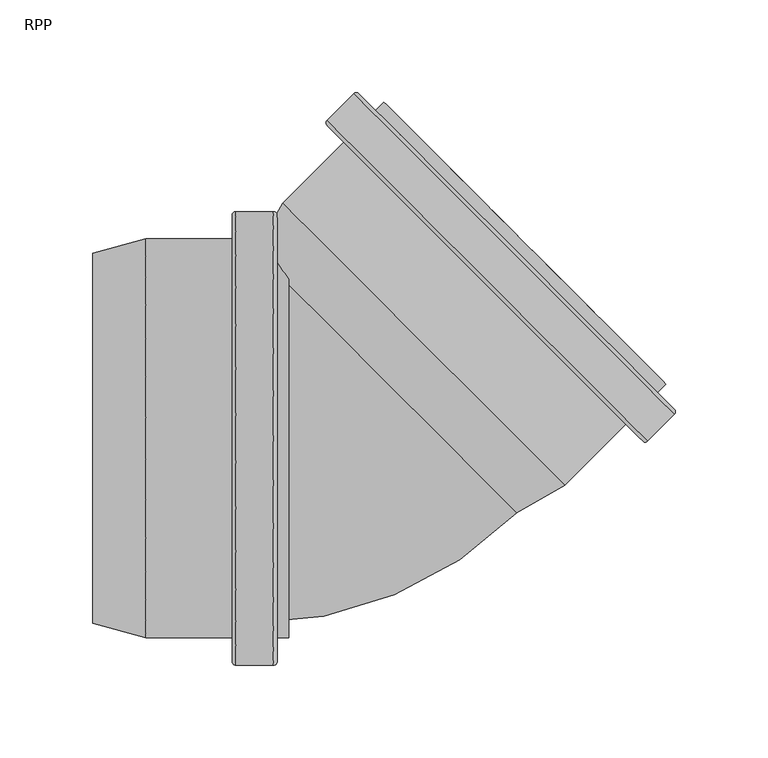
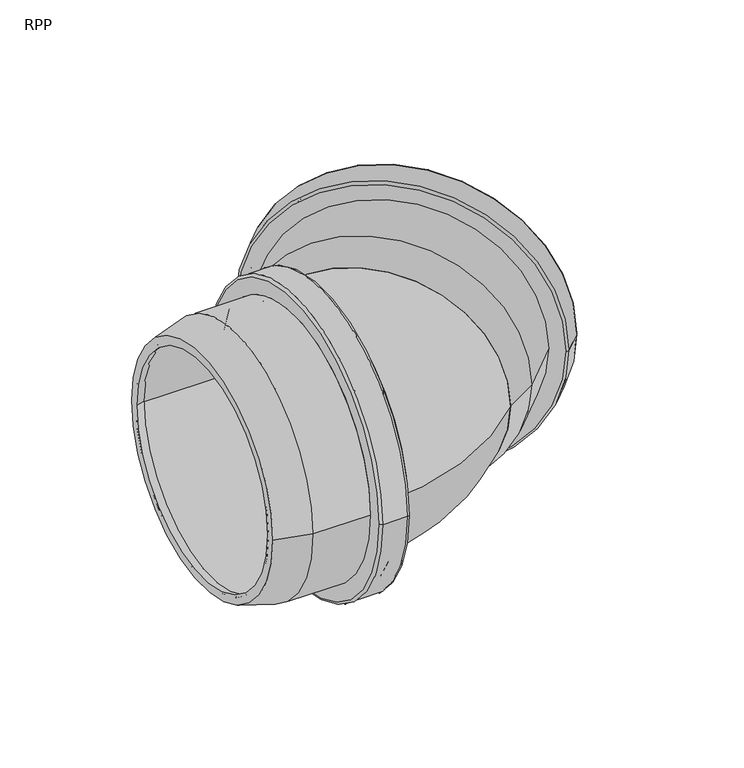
"""IFC4 building model written with IfcOpenShell, lengths in millimetres: pipe fitting geometry, RAUPIANO PLUS Bend : RPP."""

from ifc_helpers import new_model, si_unit, point, frame, origin, place, context, project, spatial, polyline, circle_curve, ellipse_curve, trimmed, source, transform, mapped, element, save
from ifc_brep_helpers import plane_surface, cylinder_surface, revolved_surface, advanced_brep


def rpp_7928c06b(model_context):
    return source(origin(), model_context, "Body", "AdvancedBrep", [
        advanced_brep(
        [(-45.2782105, -100.3, 0.0), (-45.2782105, 100.3, 0.0), (-98.3671908, 100.3, 0.0), (-98.3671908, -100.3, 0.0), (-44.7782105, -115.1, 0.0), (-44.7782105, 115.1, 0.0), (-45.2782105, 114.6, 0.0), (-45.2782105, -114.6, 0.0), (-36.2782105, -115.1, 0.0), (-36.2782105, 115.1, 0.0), (-35.7782105, -114.6, 0.0), (-35.7782105, 114.6, 0.0), (-21.9782105, -100.3, 0.0), (-21.9782105, 100.3, 0.0), (-35.7782105, 100.3, 0.0), (-35.7782105, -100.3, 0.0), (-28.3782105, -107.7, 0.0), (-28.3782105, 107.7, 0.0), (-21.9782105, 107.7, 0.0), (-21.9782105, -107.7, 0.0), (-30.3782105, -122.5, 0.0), (-30.3782105, 122.5, 0.0), (-28.3782105, 120.5, 0.0), (-28.3782105, -120.5, 0.0), (-50.6782105, -122.5, 0.0), (-50.6782105, 122.5, 0.0), (-52.6782105, -120.5, 0.0), (-52.6782105, 120.5, 0.0), (-99.3414193, -107.7, 0.0), (-99.3414193, 107.7, 0.0), (-52.6782105, 107.7, 0.0), (-52.6782105, -107.7, 0.0), (-128.0782105, -100.0, 0.0), (-128.0782105, 100.0, 0.0), (-128.0782105, 92.3389563, 0.0), (-128.0782105, -92.3389563, 0.0)],
        [
            (0, 1, circle_curve(frame((-45.2782105, 0.0, 0.0), z_axis=(1.0, 0.0, 0.0), x_axis=(0.0, 1.0, 0.0)), 100.3)),
            (1, 2),
            (2, 3, circle_curve(frame((-98.3671908, 0.0, 0.0), z_axis=(-1.0, 0.0, 0.0), x_axis=(0.0, 1.0, 0.0)), 100.3)),
            (3, 0),
            (4, 5, circle_curve(frame((-44.7782105, 0.0, 0.0), z_axis=(1.0, 0.0, 0.0), x_axis=(0.0, 1.0, 0.0)), 115.1)),
            (5, 6, circle_curve(frame((-44.7782105, 114.6, 0.0), z_axis=(0.0, 0.0, 1.0), x_axis=(0.0, -1.0, 0.0)), 0.5)),
            (6, 7, circle_curve(frame((-45.2782105, 0.0, 0.0), z_axis=(-1.0, 0.0, 0.0), x_axis=(0.0, 1.0, 0.0)), 114.6)),
            (7, 4, circle_curve(frame((-44.7782105, -114.6, 0.0), z_axis=(0.0, 0.0, 1.0), x_axis=(0.0, 1.0, 0.0)), 0.5)),
            (8, 9, circle_curve(frame((-36.2782105, 0.0, 0.0), z_axis=(1.0, 0.0, 0.0), x_axis=(0.0, 1.0, 0.0)), 115.1)),
            (9, 5),
            (4, 8),
            (10, 11, circle_curve(frame((-35.7782105, 0.0, 0.0), z_axis=(1.0, 0.0, 0.0), x_axis=(0.0, 1.0, 0.0)), 114.6)),
            (11, 9, circle_curve(frame((-36.2782105, 114.6, 0.0), z_axis=(0.0, 0.0, 1.0), x_axis=(0.0, -1.0, 0.0)), 0.5)),
            (8, 10, circle_curve(frame((-36.2782105, -114.6, 0.0), z_axis=(0.0, 0.0, 1.0), x_axis=(0.0, 1.0, 0.0)), 0.5)),
            (12, 13, circle_curve(frame((-21.9782105, 0.0, 0.0), z_axis=(1.0, 0.0, 0.0), x_axis=(0.0, 1.0, 0.0)), 100.3)),
            (13, 14),
            (14, 15, circle_curve(frame((-35.7782105, 0.0, 0.0), z_axis=(-1.0, 0.0, 0.0), x_axis=(0.0, 1.0, 0.0)), 100.3)),
            (15, 12),
            (16, 17, circle_curve(frame((-28.3782105, 0.0, 0.0), z_axis=(1.0, 0.0, 0.0), x_axis=(0.0, 1.0, 0.0)), 107.7)),
            (17, 18),
            (18, 19, circle_curve(frame((-21.9782105, 0.0, 0.0), z_axis=(-1.0, 0.0, 0.0), x_axis=(0.0, 1.0, 0.0)), 107.7)),
            (19, 16),
            (20, 21, circle_curve(frame((-30.3782105, 0.0, 0.0), z_axis=(1.0, 0.0, 0.0), x_axis=(0.0, 1.0, 0.0)), 122.5)),
            (21, 22, circle_curve(frame((-30.3782105, 120.5, 0.0), z_axis=(0.0, 0.0, -1.0), x_axis=(0.0, -1.0, 0.0)), 2.0)),
            (22, 23, circle_curve(frame((-28.3782105, 0.0, 0.0), z_axis=(-1.0, 0.0, 0.0), x_axis=(0.0, 1.0, 0.0)), 120.5)),
            (23, 20, circle_curve(frame((-30.3782105, -120.5, 0.0), z_axis=(0.0, 0.0, -1.0), x_axis=(0.0, 1.0, 0.0)), 2.0)),
            (24, 25, circle_curve(frame((-50.6782105, 0.0, 0.0), z_axis=(1.0, 0.0, 0.0), x_axis=(0.0, 1.0, 0.0)), 122.5)),
            (25, 21),
            (20, 24),
            (26, 27, circle_curve(frame((-52.6782105, 0.0, 0.0), z_axis=(1.0, 0.0, 0.0), x_axis=(0.0, 1.0, 0.0)), 120.5)),
            (27, 25, circle_curve(frame((-50.6782105, 120.5, 0.0), z_axis=(0.0, 0.0, -1.0), x_axis=(0.0, -1.0, 0.0)), 2.0)),
            (24, 26, circle_curve(frame((-50.6782105, -120.5, 0.0), z_axis=(0.0, 0.0, -1.0), x_axis=(0.0, 1.0, 0.0)), 2.0)),
            (28, 29, circle_curve(frame((-99.3414193, 0.0, 0.0), z_axis=(1.0, 0.0, 0.0), x_axis=(0.0, 1.0, 0.0)), 107.7)),
            (29, 30),
            (30, 31, circle_curve(frame((-52.6782105, 0.0, 0.0), z_axis=(-1.0, 0.0, 0.0), x_axis=(0.0, 1.0, 0.0)), 107.7)),
            (31, 28),
            (32, 33, circle_curve(frame((-128.0782105, 0.0, 0.0), z_axis=(1.0, 0.0, 0.0), x_axis=(0.0, 1.0, 0.0)), 100.0)),
            (33, 29),
            (28, 32),
            (2, 34),
            (34, 35, circle_curve(frame((-128.0782105, 0.0, 0.0), z_axis=(-1.0, 0.0, 0.0), x_axis=(0.0, 1.0, 0.0)), 92.3389563)),
            (35, 3),
            (1, 0, circle_curve(frame((-45.2782105, 0.0, 0.0), z_axis=(1.0, 0.0, 0.0), x_axis=(0.0, -1.0, 0.0)), 100.3)),
            (3, 2, circle_curve(frame((-98.3671908, 0.0, 0.0), z_axis=(-1.0, 0.0, 0.0), x_axis=(0.0, -1.0, 0.0)), 100.3)),
            (6, 7, circle_curve(frame((-45.2782105, 0.0, 0.0), z_axis=(1.0, 0.0, 0.0), x_axis=(0.0, -1.0, 0.0)), 114.6)),
            (5, 4, circle_curve(frame((-44.7782105, 0.0, 0.0), z_axis=(1.0, 0.0, 0.0), x_axis=(0.0, -1.0, 0.0)), 115.1)),
            (9, 8, circle_curve(frame((-36.2782105, 0.0, 0.0), z_axis=(1.0, 0.0, 0.0), x_axis=(0.0, -1.0, 0.0)), 115.1)),
            (11, 10, circle_curve(frame((-35.7782105, 0.0, 0.0), z_axis=(1.0, 0.0, 0.0), x_axis=(0.0, -1.0, 0.0)), 114.6)),
            (14, 15, circle_curve(frame((-35.7782105, 0.0, 0.0), z_axis=(1.0, 0.0, 0.0), x_axis=(0.0, -1.0, 0.0)), 100.3)),
            (13, 12, circle_curve(frame((-21.9782105, 0.0, 0.0), z_axis=(1.0, 0.0, 0.0), x_axis=(0.0, -1.0, 0.0)), 100.3)),
            (18, 19, circle_curve(frame((-21.9782105, 0.0, 0.0), z_axis=(1.0, 0.0, 0.0), x_axis=(0.0, -1.0, 0.0)), 107.7)),
            (17, 16, circle_curve(frame((-28.3782105, 0.0, 0.0), z_axis=(1.0, 0.0, 0.0), x_axis=(0.0, -1.0, 0.0)), 107.7)),
            (22, 23, circle_curve(frame((-28.3782105, 0.0, 0.0), z_axis=(1.0, 0.0, 0.0), x_axis=(0.0, -1.0, 0.0)), 120.5)),
            (21, 20, circle_curve(frame((-30.3782105, 0.0, 0.0), z_axis=(1.0, 0.0, 0.0), x_axis=(0.0, -1.0, 0.0)), 122.5)),
            (25, 24, circle_curve(frame((-50.6782105, 0.0, 0.0), z_axis=(1.0, 0.0, 0.0), x_axis=(0.0, -1.0, 0.0)), 122.5)),
            (27, 26, circle_curve(frame((-52.6782105, 0.0, 0.0), z_axis=(1.0, 0.0, 0.0), x_axis=(0.0, -1.0, 0.0)), 120.5)),
            (30, 31, circle_curve(frame((-52.6782105, 0.0, 0.0), z_axis=(1.0, 0.0, 0.0), x_axis=(0.0, -1.0, 0.0)), 107.7)),
            (29, 28, circle_curve(frame((-99.3414193, 0.0, 0.0), z_axis=(1.0, 0.0, 0.0), x_axis=(0.0, -1.0, 0.0)), 107.7)),
            (33, 32, circle_curve(frame((-128.0782105, 0.0, 0.0), z_axis=(1.0, 0.0, 0.0), x_axis=(0.0, -1.0, 0.0)), 100.0)),
            (34, 35, circle_curve(frame((-128.0782105, 0.0, 0.0), z_axis=(1.0, 0.0, 0.0), x_axis=(0.0, -1.0, 0.0)), 92.3389563)),
        ],
        [
            revolved_surface(polyline([(-98.3671908, 100.3, 0.0), (-45.2782105, 100.3, 0.0)]), (-128.0782105, 0.0, 0.0), (-1.0, 0.0, 0.0)),
            revolved_surface(trimmed(ellipse_curve(frame((-44.7782105, 114.6, 0.0), z_axis=(0.0, 0.0, -1.0), x_axis=(0.0, -1.0, 0.0)), 0.5, 0.5), [point((-45.2782105, 114.6, 0.0))], [point((-44.7782105, 115.1, 0.0))], True, "CARTESIAN"), (-128.0782105, 0.0, 0.0), (-1.0, 0.0, 0.0)),
            revolved_surface(polyline([(-44.7782105, 115.1, 0.0), (-36.2782105, 115.1, 0.0)]), (-128.0782105, 0.0, 0.0), (-1.0, 0.0, 0.0)),
            revolved_surface(trimmed(ellipse_curve(frame((-36.2782105, 114.6, 0.0), z_axis=(0.0, 0.0, -1.0), x_axis=(0.0, -1.0, 0.0)), 0.5, 0.5), [point((-36.2782105, 115.1, 0.0))], [point((-35.7782105, 114.6, 0.0))], True, "CARTESIAN"), (-128.0782105, 0.0, 0.0), (-1.0, 0.0, 0.0)),
            revolved_surface(polyline([(-35.7782105, 100.3, 0.0), (-21.978210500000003, 100.3, 0.0)]), (-128.0782105, 0.0, 0.0), (-1.0, 0.0, 0.0)),
            cylinder_surface(frame((-128.0782105, 0.0, 0.0), z_axis=(-1.0, 0.0, 0.0), x_axis=(0.0, 1.0, 0.0)), 107.7),
            revolved_surface(trimmed(ellipse_curve(frame((-30.3782105, 120.5, 0.0), z_axis=(0.0, 0.0, 1.0), x_axis=(0.0, -1.0, 0.0)), 2.0, 2.0), [point((-28.3782105, 120.5, 0.0))], [point((-30.3782105, 122.5, 0.0))], True, "CARTESIAN"), (-128.0782105, 0.0, 0.0), (-1.0, 0.0, 0.0)),
            cylinder_surface(frame((-128.0782105, 0.0, 0.0), z_axis=(-1.0, 0.0, 0.0), x_axis=(0.0, 1.0, 0.0)), 122.5),
            revolved_surface(trimmed(ellipse_curve(frame((-50.6782105, 120.5, 0.0), z_axis=(0.0, 0.0, 1.0), x_axis=(0.0, -1.0, 0.0)), 2.0, 2.0), [point((-50.6782105, 122.5, 0.0))], [point((-52.6782105, 120.5, 0.0))], True, "CARTESIAN"), (-128.0782105, 0.0, 0.0), (-1.0, 0.0, 0.0)),
            revolved_surface(polyline([(-99.3414193, 107.7, 0.0), (-128.0782105, 100.0, 0.0)]), (-128.0782105, 0.0, 0.0), (-1.0, 0.0, 0.0)),
            revolved_surface(polyline([(-128.0782105, 92.3389563, 0.0), (-98.3671908, 100.3, 0.0)]), (-128.0782105, 0.0, 0.0), (-1.0, 0.0, 0.0)),
            revolved_surface(polyline([(-98.3671908, -100.3, 0.0), (-45.2782105, -100.3, 0.0)]), (-128.0782105, 0.0, 0.0), (-1.0, 0.0, 0.0)),
            plane_surface(frame((-45.2782105, 0.0, 0.0), z_axis=(1.0, 0.0, 0.0), x_axis=(0.0, -1.0, 0.0))),
            revolved_surface(trimmed(ellipse_curve(frame((-44.7782105, -114.6, 0.0), z_axis=(0.0, 0.0, 1.0), x_axis=(0.0, 1.0, 0.0)), 0.5, 0.5), [point((-45.2782105, -114.6, 0.0))], [point((-44.7782105, -115.1, 0.0))], True, "CARTESIAN"), (-128.0782105, 0.0, 0.0), (-1.0, 0.0, 0.0)),
            revolved_surface(polyline([(-44.7782105, -115.1, 0.0), (-36.2782105, -115.1, 0.0)]), (-128.0782105, 0.0, 0.0), (-1.0, 0.0, 0.0)),
            revolved_surface(trimmed(ellipse_curve(frame((-36.2782105, -114.6, 0.0), z_axis=(0.0, 0.0, 1.0), x_axis=(0.0, 1.0, 0.0)), 0.5, 0.5), [point((-36.2782105, -115.1, 0.0))], [point((-35.7782105, -114.6, 0.0))], True, "CARTESIAN"), (-128.0782105, 0.0, 0.0), (-1.0, 0.0, 0.0)),
            plane_surface(frame((-35.7782105, 0.0, 0.0), z_axis=(-1.0, 0.0, 0.0), x_axis=(0.0, -1.0, 0.0))),
            revolved_surface(polyline([(-35.7782105, -100.3, 0.0), (-21.978210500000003, -100.3, 0.0)]), (-128.0782105, 0.0, 0.0), (-1.0, 0.0, 0.0)),
            plane_surface(frame((-21.9782105, 0.0, 0.0), z_axis=(1.0, 0.0, 0.0), x_axis=(0.0, -1.0, 0.0))),
            cylinder_surface(frame((-128.0782105, 0.0, 0.0), z_axis=(-1.0, 0.0, 0.0), x_axis=(0.0, -1.0, 0.0)), 107.7),
            plane_surface(frame((-28.3782105, 0.0, 0.0), z_axis=(1.0, 0.0, 0.0), x_axis=(0.0, -1.0, 0.0))),
            revolved_surface(trimmed(ellipse_curve(frame((-30.3782105, -120.5, 0.0), z_axis=(0.0, 0.0, -1.0), x_axis=(0.0, 1.0, 0.0)), 2.0, 2.0), [point((-28.3782105, -120.5, 0.0))], [point((-30.3782105, -122.5, 0.0))], True, "CARTESIAN"), (-128.0782105, 0.0, 0.0), (-1.0, 0.0, 0.0)),
            cylinder_surface(frame((-128.0782105, 0.0, 0.0), z_axis=(-1.0, 0.0, 0.0), x_axis=(0.0, -1.0, 0.0)), 122.5),
            revolved_surface(trimmed(ellipse_curve(frame((-50.6782105, -120.5, 0.0), z_axis=(0.0, 0.0, -1.0), x_axis=(0.0, 1.0, 0.0)), 2.0, 2.0), [point((-50.6782105, -122.5, 0.0))], [point((-52.6782105, -120.5, 0.0))], True, "CARTESIAN"), (-128.0782105, 0.0, 0.0), (-1.0, 0.0, 0.0)),
            plane_surface(frame((-52.6782105, 0.0, 0.0), z_axis=(-1.0, 0.0, 0.0), x_axis=(0.0, -1.0, 0.0))),
            revolved_surface(polyline([(-99.3414193, -107.7, 0.0), (-128.0782105, -100.0, 0.0)]), (-128.0782105, 0.0, 0.0), (-1.0, 0.0, 0.0)),
            plane_surface(frame((-128.0782105, 0.0, 0.0), z_axis=(-1.0, 0.0, 0.0), x_axis=(0.0, -1.0, 0.0))),
            revolved_surface(polyline([(-128.0782105, -92.3389563, 0.0), (-98.3671908, -100.3, 0.0)]), (-128.0782105, 0.0, 0.0), (-1.0, 0.0, 0.0)),
        ],
        [
            (0, [[1, 2, 3, 4]]),
            (1, [[5, 6, 7, 8]]),
            (2, [[9, 10, -5, 11]]),
            (3, [[12, 13, -9, 14]]),
            (4, [[15, 16, 17, 18]]),
            (5, [[19, 20, 21, 22]]),
            (6, [[23, 24, 25, 26]]),
            (7, [[27, 28, -23, 29]]),
            (8, [[30, 31, -27, 32]]),
            (5, [[33, 34, 35, 36]]),
            (9, [[37, 38, -33, 39]]),
            (10, [[-3, 40, 41, 42]]),
            (11, [[43, -4, 44, -2]]),
            (12, [[45, -7], [-43, -1]]),
            (13, [[46, -8, -45, -6]]),
            (14, [[47, -11, -46, -10]]),
            (15, [[48, -14, -47, -13]]),
            (16, [[-48, -12], [49, -17]]),
            (17, [[50, -18, -49, -16]]),
            (18, [[51, -21], [-50, -15]]),
            (19, [[52, -22, -51, -20]]),
            (20, [[53, -25], [-52, -19]]),
            (21, [[54, -26, -53, -24]]),
            (22, [[55, -29, -54, -28]]),
            (23, [[56, -32, -55, -31]]),
            (24, [[-56, -30], [57, -35]]),
            (19, [[58, -36, -57, -34]]),
            (25, [[59, -39, -58, -38]]),
            (26, [[-59, -37], [60, -41]]),
            (27, [[-44, -42, -60, -40]]),
        ],
    ),
        advanced_brep(
        [(95.7543969, -34.8326074, 0.0), (-34.8326074, 95.7543969, 0.0), (-19.4530519, 122.3925684, 0.0), (122.3925684, -19.4530519, 0.0), (126.936275, -25.3745256, 0.0), (-25.3745256, 126.936275, 0.0), (-40.2497834, 101.1715729, 0.0), (101.1715729, -40.2497834, 0.0), (159.9321464, 7.6213457, 0.0), (7.6213457, 159.9321464, 0.0), (186.165808, 12.9246466, 0.0), (12.9246466, 186.165808, 0.0), (-1.4296211, 171.8115403, 0.0), (171.8115403, -1.4296211, 0.0), (181.6403246, 29.3295239, 0.0), (29.3295239, 181.6403246, 0.0), (24.8040405, 177.1148412, 0.0), (177.1148412, 24.8040405, 0.0), (166.6496608, 24.8040405, 0.0), (24.8040405, 166.6496608, 0.0), (34.5621141, 176.4077344, 0.0), (176.4077344, 34.5621141, 0.0), (170.7508801, 7.9748991, 0.0), (7.9748991, 170.7508801, 0.0), (13.9853068, 176.7612878, 0.0), (176.7612878, 13.9853068, 0.0), (18.0865261, 159.9321464, 0.0), (159.9321464, 18.0865261, 0.0), (-1.4296211, 168.9831132, 0.0), (168.9831132, -1.4296211, 0.0), (186.165808, 15.7530737, 0.0), (15.7530737, 186.165808, 0.0), (14.6924135, 176.7612878, 0.0), (176.7612878, 14.6924135, 0.0), (170.0437734, 7.9748991, 0.0), (7.9748991, 170.0437734, 0.0)],
        [
            (0, 1, circle_curve(frame((30.4608948, 30.4608948, 0.0), z_axis=(-0.7071067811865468, -0.7071067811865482, 0.0), x_axis=(-0.7071067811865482, 0.7071067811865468, 0.0)), 92.3389563)),
            (1, 2),
            (2, 3, circle_curve(frame((51.4697583, 51.4697583, 0.0), z_axis=(0.7071067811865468, 0.7071067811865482, 0.0), x_axis=(-0.7071067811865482, 0.7071067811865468, 0.0)), 100.3)),
            (3, 0),
            (4, 5, circle_curve(frame((50.7808747, 50.7808747, 0.0), z_axis=(-0.7071067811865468, -0.7071067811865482, 0.0), x_axis=(-0.7071067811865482, 0.7071067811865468, 0.0)), 107.7)),
            (5, 6),
            (6, 7, circle_curve(frame((30.4608948, 30.4608948, 0.0), z_axis=(0.7071067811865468, 0.7071067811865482, 0.0), x_axis=(-0.7071067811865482, 0.7071067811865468, 0.0)), 100.0)),
            (7, 4),
            (8, 9, circle_curve(frame((83.7767461, 83.7767461, 0.0), z_axis=(-0.7071067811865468, -0.7071067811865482, 0.0), x_axis=(-0.7071067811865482, 0.7071067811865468, 0.0)), 107.7)),
            (9, 5),
            (4, 8),
            (10, 11, circle_curve(frame((99.5452273, 99.5452273, 0.0), z_axis=(-0.7071067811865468, -0.7071067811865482, 0.0), x_axis=(-0.7071067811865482, 0.7071067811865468, 0.0)), 122.5)),
            (11, 12),
            (12, 13, circle_curve(frame((85.1909596, 85.1909596, 0.0), z_axis=(0.7071067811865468, 0.7071067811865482, 0.0), x_axis=(-0.7071067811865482, 0.7071067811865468, 0.0)), 122.5)),
            (13, 10),
            (14, 15, circle_curve(frame((105.4849242, 105.4849242, 0.0), z_axis=(-0.7071067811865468, -0.7071067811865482, 0.0), x_axis=(-0.7071067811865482, 0.7071067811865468, 0.0)), 107.7)),
            (15, 16),
            (16, 17, circle_curve(frame((100.9594408, 100.9594408, 0.0), z_axis=(0.7071067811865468, 0.7071067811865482, 0.0), x_axis=(-0.7071067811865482, 0.7071067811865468, 0.0)), 107.7)),
            (17, 14),
            (18, 19, circle_curve(frame((95.7268507, 95.7268507, 0.0), z_axis=(-0.7071067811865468, -0.7071067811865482, 0.0), x_axis=(-0.7071067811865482, 0.7071067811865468, 0.0)), 100.3)),
            (19, 20),
            (20, 21, circle_curve(frame((105.4849242, 105.4849242, 0.0), z_axis=(0.7071067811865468, 0.7071067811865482, 0.0), x_axis=(-0.7071067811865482, 0.7071067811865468, 0.0)), 100.3)),
            (21, 18),
            (22, 23, circle_curve(frame((89.3628896, 89.3628896, 0.0), z_axis=(-0.7071067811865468, -0.7071067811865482, 0.0), x_axis=(-0.7071067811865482, 0.7071067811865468, 0.0)), 115.1)),
            (23, 24),
            (24, 25, circle_curve(frame((95.3732973, 95.3732973, 0.0), z_axis=(0.7071067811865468, 0.7071067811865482, 0.0), x_axis=(-0.7071067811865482, 0.7071067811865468, 0.0)), 115.1)),
            (25, 22),
            (2, 26),
            (26, 27, circle_curve(frame((89.0093362, 89.0093362, 0.0), z_axis=(0.7071067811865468, 0.7071067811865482, 0.0), x_axis=(-0.7071067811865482, 0.7071067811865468, 0.0)), 100.3)),
            (27, 3),
            (1, 0, circle_curve(frame((30.4608948, 30.4608948, 0.0), z_axis=(-0.7071067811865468, -0.7071067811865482, 0.0), x_axis=(0.7071067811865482, -0.7071067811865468, 0.0)), 92.3389563)),
            (3, 2, circle_curve(frame((51.4697583, 51.4697583, 0.0), z_axis=(0.7071067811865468, 0.7071067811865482, 0.0), x_axis=(0.7071067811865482, -0.7071067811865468, 0.0)), 100.3)),
            (6, 7, circle_curve(frame((30.4608948, 30.4608948, 0.0), z_axis=(-0.7071067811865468, -0.7071067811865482, 0.0), x_axis=(0.7071067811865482, -0.7071067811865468, 0.0)), 100.0)),
            (5, 4, circle_curve(frame((50.7808747, 50.7808747, 0.0), z_axis=(-0.7071067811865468, -0.7071067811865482, 0.0), x_axis=(0.7071067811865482, -0.7071067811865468, 0.0)), 107.7)),
            (9, 8, circle_curve(frame((83.7767461, 83.7767461, 0.0), z_axis=(-0.7071067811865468, -0.7071067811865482, 0.0), x_axis=(0.7071067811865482, -0.7071067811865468, 0.0)), 107.7)),
            (28, 29, circle_curve(frame((83.7767461, 83.7767461, 0.0), z_axis=(-0.7071067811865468, -0.7071067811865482, 0.0), x_axis=(0.7071067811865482, -0.7071067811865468, 0.0)), 120.5)),
            (29, 28, circle_curve(frame((83.7767461, 83.7767461, 0.0), z_axis=(-0.7071067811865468, -0.7071067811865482, 0.0), x_axis=(-0.7071067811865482, 0.7071067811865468, 0.0)), 120.5)),
            (11, 10, circle_curve(frame((99.5452273, 99.5452273, 0.0), z_axis=(-0.7071067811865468, -0.7071067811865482, 0.0), x_axis=(0.7071067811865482, -0.7071067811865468, 0.0)), 122.5)),
            (13, 12, circle_curve(frame((85.1909596, 85.1909596, 0.0), z_axis=(0.7071067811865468, 0.7071067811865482, 0.0), x_axis=(0.7071067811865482, -0.7071067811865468, 0.0)), 122.5)),
            (30, 31, circle_curve(frame((100.9594408, 100.9594408, 0.0), z_axis=(0.7071067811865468, 0.7071067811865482, 0.0), x_axis=(0.7071067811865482, -0.7071067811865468, 0.0)), 120.5)),
            (31, 30, circle_curve(frame((100.9594408, 100.9594408, 0.0), z_axis=(0.7071067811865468, 0.7071067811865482, 0.0), x_axis=(-0.7071067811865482, 0.7071067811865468, 0.0)), 120.5)),
            (16, 17, circle_curve(frame((100.9594408, 100.9594408, 0.0), z_axis=(-0.7071067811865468, -0.7071067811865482, 0.0), x_axis=(0.7071067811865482, -0.7071067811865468, 0.0)), 107.7)),
            (15, 14, circle_curve(frame((105.4849242, 105.4849242, 0.0), z_axis=(-0.7071067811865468, -0.7071067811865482, 0.0), x_axis=(0.7071067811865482, -0.7071067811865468, 0.0)), 107.7)),
            (20, 21, circle_curve(frame((105.4849242, 105.4849242, 0.0), z_axis=(-0.7071067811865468, -0.7071067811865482, 0.0), x_axis=(0.7071067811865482, -0.7071067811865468, 0.0)), 100.3)),
            (19, 18, circle_curve(frame((95.7268507, 95.7268507, 0.0), z_axis=(-0.7071067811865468, -0.7071067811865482, 0.0), x_axis=(0.7071067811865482, -0.7071067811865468, 0.0)), 100.3)),
            (32, 33, circle_curve(frame((95.7268507, 95.7268507, 0.0), z_axis=(-0.7071067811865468, -0.7071067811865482, 0.0), x_axis=(0.7071067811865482, -0.7071067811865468, 0.0)), 114.6)),
            (33, 32, circle_curve(frame((95.7268507, 95.7268507, 0.0), z_axis=(-0.7071067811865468, -0.7071067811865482, 0.0), x_axis=(-0.7071067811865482, 0.7071067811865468, 0.0)), 114.6)),
            (23, 22, circle_curve(frame((89.3628896, 89.3628896, 0.0), z_axis=(-0.7071067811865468, -0.7071067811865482, 0.0), x_axis=(0.7071067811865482, -0.7071067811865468, 0.0)), 115.1)),
            (25, 24, circle_curve(frame((95.3732973, 95.3732973, 0.0), z_axis=(0.7071067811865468, 0.7071067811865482, 0.0), x_axis=(0.7071067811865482, -0.7071067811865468, 0.0)), 115.1)),
            (34, 35, circle_curve(frame((89.0093362, 89.0093362, 0.0), z_axis=(0.7071067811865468, 0.7071067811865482, 0.0), x_axis=(0.7071067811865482, -0.7071067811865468, 0.0)), 114.6)),
            (35, 34, circle_curve(frame((89.0093362, 89.0093362, 0.0), z_axis=(0.7071067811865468, 0.7071067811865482, 0.0), x_axis=(-0.7071067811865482, 0.7071067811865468, 0.0)), 114.6)),
            (26, 27, circle_curve(frame((89.0093362, 89.0093362, 0.0), z_axis=(-0.7071067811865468, -0.7071067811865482, 0.0), x_axis=(0.7071067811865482, -0.7071067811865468, 0.0)), 100.3)),
            (12, 28, circle_curve(frame((-0.0154075, 170.3973268, 0.0), z_axis=(0.0, 0.0, 1.0), x_axis=(0.7071067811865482, -0.7071067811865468, 0.0)), 2.0)),
            (29, 13, circle_curve(frame((170.3973268, -0.0154075, 0.0), z_axis=(0.0, 0.0, 1.0), x_axis=(-0.7071067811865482, 0.7071067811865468, 0.0)), 2.0)),
            (31, 11, circle_curve(frame((14.3388601, 184.7515944, 0.0), z_axis=(0.0, 0.0, 1.0), x_axis=(0.7071067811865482, -0.7071067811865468, 0.0)), 2.0)),
            (10, 30, circle_curve(frame((184.7515944, 14.3388601, 0.0), z_axis=(0.0, 0.0, 1.0), x_axis=(-0.7071067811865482, 0.7071067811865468, 0.0)), 2.0)),
            (24, 32, circle_curve(frame((14.3388601, 176.4077344, 0.0), z_axis=(0.0, 0.0, -1.0), x_axis=(0.7071067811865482, -0.7071067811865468, 0.0)), 0.5)),
            (33, 25, circle_curve(frame((176.4077344, 14.3388601, 0.0), z_axis=(0.0, 0.0, -1.0), x_axis=(-0.7071067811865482, 0.7071067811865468, 0.0)), 0.5)),
            (35, 23, circle_curve(frame((8.3284525, 170.3973268, 0.0), z_axis=(0.0, 0.0, -1.0), x_axis=(0.7071067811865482, -0.7071067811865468, 0.0)), 0.5)),
            (22, 34, circle_curve(frame((170.3973268, 8.3284525, 0.0), z_axis=(0.0, 0.0, -1.0), x_axis=(-0.7071067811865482, 0.7071067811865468, 0.0)), 0.5)),
        ],
        [
            revolved_surface(polyline([(-19.4530519, 122.3925684, 0.0), (-34.8326074, 95.7543969, 0.0)]), (30.4608948, 30.4608948, 0.0), (0.7071067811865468, 0.7071067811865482, 0.0)),
            revolved_surface(polyline([(-40.2497834, 101.1715729, 0.0), (-25.3745256, 126.936275, 0.0)]), (30.4608948, 30.4608948, 0.0), (0.7071067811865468, 0.7071067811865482, 0.0)),
            cylinder_surface(frame((30.4608948, 30.4608948, 0.0), z_axis=(0.7071067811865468, 0.7071067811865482, 0.0), x_axis=(-0.7071067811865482, 0.7071067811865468, 0.0)), 107.7),
            cylinder_surface(frame((30.4608948, 30.4608948, 0.0), z_axis=(0.7071067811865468, 0.7071067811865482, 0.0), x_axis=(-0.7071067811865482, 0.7071067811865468, 0.0)), 122.5),
            revolved_surface(polyline([(34.56211409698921, 176.4077344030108, 0.0), (24.804040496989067, 166.64966080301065, 0.0)]), (30.4608948, 30.4608948, 0.0), (0.7071067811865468, 0.7071067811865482, 0.0)),
            revolved_surface(polyline([(13.985306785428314, 176.7612878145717, 0.0), (7.974899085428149, 170.7508801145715, 0.0)]), (30.4608948, 30.4608948, 0.0), (0.7071067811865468, 0.7071067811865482, 0.0)),
            revolved_surface(polyline([(18.086526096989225, 159.93214640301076, 0.0), (-19.45305190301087, 122.3925684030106, 0.0)]), (30.4608948, 30.4608948, 0.0), (0.7071067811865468, 0.7071067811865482, 0.0)),
            revolved_surface(polyline([(122.3925684, -19.4530519, 0.0), (95.7543969, -34.8326074, 0.0)]), (30.4608948, 30.4608948, 0.0), (0.7071067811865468, 0.7071067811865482, 0.0)),
            plane_surface(frame((30.4608948, 30.4608948, 0.0), z_axis=(-0.7071067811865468, -0.7071067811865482, 0.0), x_axis=(0.7071067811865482, -0.7071067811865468, 0.0))),
            revolved_surface(polyline([(101.1715729, -40.2497834, 0.0), (126.936275, -25.3745256, 0.0)]), (30.4608948, 30.4608948, 0.0), (0.7071067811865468, 0.7071067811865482, 0.0)),
            cylinder_surface(frame((30.4608948, 30.4608948, 0.0), z_axis=(0.7071067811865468, 0.7071067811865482, 0.0), x_axis=(0.7071067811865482, -0.7071067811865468, 0.0)), 107.7),
            plane_surface(frame((83.7767461, 83.7767461, 0.0), z_axis=(-0.7071067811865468, -0.7071067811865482, 0.0), x_axis=(0.7071067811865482, -0.7071067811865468, 0.0))),
            cylinder_surface(frame((30.4608948, 30.4608948, 0.0), z_axis=(0.7071067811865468, 0.7071067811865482, 0.0), x_axis=(0.7071067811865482, -0.7071067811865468, 0.0)), 122.5),
            plane_surface(frame((100.9594408, 100.9594408, 0.0), z_axis=(0.7071067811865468, 0.7071067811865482, 0.0), x_axis=(0.7071067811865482, -0.7071067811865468, 0.0))),
            plane_surface(frame((105.4849242, 105.4849242, 0.0), z_axis=(0.7071067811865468, 0.7071067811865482, 0.0), x_axis=(0.7071067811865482, -0.7071067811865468, 0.0))),
            revolved_surface(polyline([(176.40773440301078, 34.56211409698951, 0.0), (166.64966080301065, 24.80404049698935, 0.0)]), (30.4608948, 30.4608948, 0.0), (0.7071067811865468, 0.7071067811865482, 0.0)),
            plane_surface(frame((95.7268507, 95.7268507, 0.0), z_axis=(-0.7071067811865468, -0.7071067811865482, 0.0), x_axis=(0.7071067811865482, -0.7071067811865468, 0.0))),
            revolved_surface(polyline([(176.76128781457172, 13.985306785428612, 0.0), (170.75088011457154, 7.97489908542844, 0.0)]), (30.4608948, 30.4608948, 0.0), (0.7071067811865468, 0.7071067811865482, 0.0)),
            plane_surface(frame((89.0093362, 89.0093362, 0.0), z_axis=(0.7071067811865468, 0.7071067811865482, 0.0), x_axis=(0.7071067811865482, -0.7071067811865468, 0.0))),
            revolved_surface(polyline([(159.9321464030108, 18.086526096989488, 0.0), (122.3925684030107, -19.453051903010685, 0.0)]), (30.4608948, 30.4608948, 0.0), (0.7071067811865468, 0.7071067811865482, 0.0)),
            revolved_surface(trimmed(ellipse_curve(frame((-0.0154075, 170.3973268, 0.0), z_axis=(0.0, 0.0, -1.0), x_axis=(0.7071067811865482, -0.7071067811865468, 0.0)), 2.0, 2.0), [point((-1.4296211, 168.9831132, 0.0))], [point((-1.4296211, 171.8115403, 0.0))], True, "CARTESIAN"), (30.4608948, 30.4608948, 0.0), (0.7071067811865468, 0.7071067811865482, 0.0)),
            revolved_surface(trimmed(ellipse_curve(frame((14.3388601, 184.7515944, 0.0), z_axis=(0.0, 0.0, -1.0), x_axis=(0.7071067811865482, -0.7071067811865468, 0.0)), 2.0, 2.0), [point((12.9246466, 186.165808, 0.0))], [point((15.7530737, 186.165808, 0.0))], True, "CARTESIAN"), (30.4608948, 30.4608948, 0.0), (0.7071067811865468, 0.7071067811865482, 0.0)),
            revolved_surface(trimmed(ellipse_curve(frame((14.3388601, 176.4077344, 0.0), z_axis=(0.0, 0.0, 1.0), x_axis=(0.7071067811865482, -0.7071067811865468, 0.0)), 0.5, 0.5), [point((14.6924135, 176.7612878, 0.0))], [point((13.9853068, 176.7612878, 0.0))], True, "CARTESIAN"), (30.4608948, 30.4608948, 0.0), (0.7071067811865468, 0.7071067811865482, 0.0)),
            revolved_surface(trimmed(ellipse_curve(frame((8.3284525, 170.3973268, 0.0), z_axis=(0.0, 0.0, 1.0), x_axis=(0.7071067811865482, -0.7071067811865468, 0.0)), 0.5, 0.5), [point((7.9748991, 170.7508801, 0.0))], [point((7.9748991, 170.0437734, 0.0))], True, "CARTESIAN"), (30.4608948, 30.4608948, 0.0), (0.7071067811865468, 0.7071067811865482, 0.0)),
            revolved_surface(trimmed(ellipse_curve(frame((170.3973268, -0.0154075, 0.0), z_axis=(0.0, 0.0, 1.0), x_axis=(-0.7071067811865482, 0.7071067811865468, 0.0)), 2.0, 2.0), [point((168.9831132, -1.4296211, 0.0))], [point((171.8115403, -1.4296211, 0.0))], True, "CARTESIAN"), (30.4608948, 30.4608948, 0.0), (0.7071067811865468, 0.7071067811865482, 0.0)),
            revolved_surface(trimmed(ellipse_curve(frame((184.7515944, 14.3388601, 0.0), z_axis=(0.0, 0.0, 1.0), x_axis=(-0.7071067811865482, 0.7071067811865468, 0.0)), 2.0, 2.0), [point((186.165808, 12.9246466, 0.0))], [point((186.165808, 15.7530737, 0.0))], True, "CARTESIAN"), (30.4608948, 30.4608948, 0.0), (0.7071067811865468, 0.7071067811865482, 0.0)),
            revolved_surface(trimmed(ellipse_curve(frame((176.4077344, 14.3388601, 0.0), z_axis=(0.0, 0.0, -1.0), x_axis=(-0.7071067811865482, 0.7071067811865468, 0.0)), 0.5, 0.5), [point((176.7612878, 14.6924135, 0.0))], [point((176.7612878, 13.9853068, 0.0))], True, "CARTESIAN"), (30.4608948, 30.4608948, 0.0), (0.7071067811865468, 0.7071067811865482, 0.0)),
            revolved_surface(trimmed(ellipse_curve(frame((170.3973268, 8.3284525, 0.0), z_axis=(0.0, 0.0, -1.0), x_axis=(-0.7071067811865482, 0.7071067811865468, 0.0)), 0.5, 0.5), [point((170.7508801, 7.9748991, 0.0))], [point((170.0437734, 7.9748991, 0.0))], True, "CARTESIAN"), (30.4608948, 30.4608948, 0.0), (0.7071067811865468, 0.7071067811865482, 0.0)),
        ],
        [
            (0, [[1, 2, 3, 4]]),
            (1, [[5, 6, 7, 8]]),
            (2, [[9, 10, -5, 11]]),
            (3, [[12, 13, 14, 15]]),
            (2, [[16, 17, 18, 19]]),
            (4, [[20, 21, 22, 23]]),
            (5, [[24, 25, 26, 27]]),
            (6, [[-3, 28, 29, 30]]),
            (7, [[31, -4, 32, -2]]),
            (8, [[33, -7], [-31, -1]]),
            (9, [[34, -8, -33, -6]]),
            (10, [[35, -11, -34, -10]]),
            (11, [[36, 37], [-35, -9]]),
            (12, [[38, -15, 39, -13]]),
            (13, [[40, 41], [42, -18]]),
            (10, [[43, -19, -42, -17]]),
            (14, [[-43, -16], [44, -22]]),
            (15, [[45, -23, -44, -21]]),
            (16, [[46, 47], [-45, -20]]),
            (17, [[48, -27, 49, -25]]),
            (18, [[50, 51], [52, -29]]),
            (19, [[-32, -30, -52, -28]]),
            (20, [[-14, 53, -37, 54]]),
            (21, [[-41, 55, -12, 56]]),
            (22, [[-26, 57, -47, 58]]),
            (23, [[-51, 59, -24, 60]]),
            (24, [[-39, -54, -36, -53]]),
            (25, [[-40, -56, -38, -55]]),
            (26, [[-49, -58, -46, -57]]),
            (27, [[-50, -60, -48, -59]]),
        ],
    ),
        advanced_brep(
        [(-43.0782105, 93.8, 0.0), (-43.0782105, -93.8, 0.0), (-128.0782105, -93.8, 0.0), (-128.0782105, 93.8, 0.0), (-107.9251361, 100.0, 0.0), (-107.9251361, -100.0, 0.0), (-43.0782105, -100.0, 0.0), (-43.0782105, 100.0, 0.0), (-128.0782105, 94.6, 0.0), (-128.0782105, -94.6, 0.0)],
        [
            (0, 1, circle_curve(frame((-43.0782105, 0.0, 0.0), z_axis=(1.0, 0.0, 0.0), x_axis=(0.0, -1.0, 0.0)), 93.8)),
            (1, 2),
            (2, 3, circle_curve(frame((-128.0782105, 0.0, 0.0), z_axis=(-1.0, 0.0, 0.0), x_axis=(0.0, -1.0, 0.0)), 93.8)),
            (3, 0),
            (4, 5, circle_curve(frame((-107.9251361, 0.0, 0.0), z_axis=(1.0, 0.0, 0.0), x_axis=(0.0, -1.0, 0.0)), 100.0)),
            (5, 6),
            (6, 7, circle_curve(frame((-43.0782105, 0.0, 0.0), z_axis=(-1.0, 0.0, 0.0), x_axis=(0.0, -1.0, 0.0)), 100.0)),
            (7, 4),
            (8, 9, circle_curve(frame((-128.0782105, 0.0, 0.0), z_axis=(1.0, 0.0, 0.0), x_axis=(0.0, -1.0, 0.0)), 94.6)),
            (9, 5),
            (4, 8),
            (1, 0, circle_curve(frame((-43.0782105, 0.0, 0.0), z_axis=(1.0, 0.0, 0.0), x_axis=(0.0, 1.0, 0.0)), 93.8)),
            (3, 2, circle_curve(frame((-128.0782105, 0.0, 0.0), z_axis=(-1.0, 0.0, 0.0), x_axis=(0.0, 1.0, 0.0)), 93.8)),
            (6, 7, circle_curve(frame((-43.0782105, 0.0, 0.0), z_axis=(1.0, 0.0, 0.0), x_axis=(0.0, 1.0, 0.0)), 100.0)),
            (5, 4, circle_curve(frame((-107.9251361, 0.0, 0.0), z_axis=(1.0, 0.0, 0.0), x_axis=(0.0, 1.0, 0.0)), 100.0)),
            (9, 8, circle_curve(frame((-128.0782105, 0.0, 0.0), z_axis=(1.0, 0.0, 0.0), x_axis=(0.0, 1.0, 0.0)), 94.6)),
        ],
        [
            revolved_surface(polyline([(-128.0782105, -93.8, 0.0), (-43.0782105, -93.8, 0.0)]), (-43.0782105, 0.0, 0.0), (-1.0, 0.0, 0.0)),
            cylinder_surface(frame((-43.0782105, 0.0, 0.0), z_axis=(-1.0, 0.0, 0.0), x_axis=(0.0, -1.0, 0.0)), 100.0),
            revolved_surface(polyline([(-107.9251361, -100.0, 0.0), (-128.0782105, -94.6, 0.0)]), (-43.0782105, 0.0, 0.0), (-1.0, 0.0, 0.0)),
            revolved_surface(polyline([(-128.0782105, 93.8, 0.0), (-43.0782105, 93.8, 0.0)]), (-43.0782105, 0.0, 0.0), (-1.0, 0.0, 0.0)),
            plane_surface(frame((-43.0782105, 0.0, 0.0), z_axis=(1.0, 0.0, 0.0), x_axis=(0.0, 1.0, 0.0))),
            cylinder_surface(frame((-43.0782105, 0.0, 0.0), z_axis=(-1.0, 0.0, 0.0), x_axis=(0.0, 1.0, 0.0)), 100.0),
            revolved_surface(polyline([(-107.9251361, 100.0, 0.0), (-128.0782105, 94.6, 0.0)]), (-43.0782105, 0.0, 0.0), (-1.0, 0.0, 0.0)),
            plane_surface(frame((-128.0782105, 0.0, 0.0), z_axis=(-1.0, 0.0, 0.0), x_axis=(0.0, 1.0, 0.0))),
        ],
        [
            (0, [[1, 2, 3, 4]]),
            (1, [[5, 6, 7, 8]]),
            (2, [[9, 10, -5, 11]]),
            (3, [[12, -4, 13, -2]]),
            (4, [[14, -7], [-12, -1]]),
            (5, [[15, -8, -14, -6]]),
            (6, [[16, -11, -15, -10]]),
            (7, [[-16, -9], [-13, -3]]),
        ],
    ),
        advanced_brep(
        [(-43.0782105, -100.0, 0.0), (-43.0782105, 100.0, 0.0), (-43.0782105, -93.8, 0.0), (-43.0782105, 93.8, 0.0), (101.1715729, -40.2497834, 0.0), (-40.2497834, 101.1715729, 0.0), (96.7875108, -35.8657213, 0.0), (-35.8657213, 96.7875108, 0.0)],
        [
            (0, 1, circle_curve(frame((-43.0782105, 0.0, 0.0), z_axis=(-1.0, 0.0, 0.0), x_axis=(0.0, 1.0, 0.0)), 100.0)),
            (1, 0, circle_curve(frame((-43.0782105, 0.0, 0.0), z_axis=(-1.0, 0.0, 0.0), x_axis=(0.0, 1.0, 0.0)), 100.0)),
            (2, 3, circle_curve(frame((-43.0782105, 0.0, 0.0), z_axis=(1.0, 0.0, 0.0), x_axis=(0.0, 1.0, 0.0)), 93.8)),
            (3, 2, circle_curve(frame((-43.0782105, 0.0, 0.0), z_axis=(1.0, 0.0, 0.0), x_axis=(0.0, 1.0, 0.0)), 93.8)),
            (4, 5, circle_curve(frame((30.4608948, 30.4608948, 0.0), z_axis=(0.7071067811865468, 0.7071067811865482, 0.0), x_axis=(-0.7071067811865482, 0.7071067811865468, 0.0)), 100.0)),
            (5, 4, circle_curve(frame((30.4608948, 30.4608948, 0.0), z_axis=(0.7071067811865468, 0.7071067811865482, 0.0), x_axis=(-0.7071067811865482, 0.7071067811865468, 0.0)), 100.0)),
            (6, 7, circle_curve(frame((30.4608948, 30.4608948, 0.0), z_axis=(-0.7071067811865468, -0.7071067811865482, 0.0), x_axis=(-0.7071067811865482, 0.7071067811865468, 0.0)), 93.8)),
            (7, 6, circle_curve(frame((30.4608948, 30.4608948, 0.0), z_axis=(-0.7071067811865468, -0.7071067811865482, 0.0), x_axis=(-0.7071067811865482, 0.7071067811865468, 0.0)), 93.8)),
            (7, 3, circle_curve(frame((-43.0782105, 104.0, 0.0), z_axis=(0.0, 0.0, -1.0), x_axis=(0.0, -1.0, 0.0)), 10.2)),
            (2, 6, circle_curve(frame((-43.0782105, 104.0, 0.0), z_axis=(0.0, 0.0, 1.0), x_axis=(0.0, -1.0, 0.0)), 197.8)),
            (5, 1, circle_curve(frame((-43.0782105, 104.0, 0.0), z_axis=(0.0, 0.0, -1.0), x_axis=(0.0, -1.0, 0.0)), 4.0)),
            (0, 4, circle_curve(frame((-43.0782105, 104.0, 0.0), z_axis=(0.0, 0.0, 1.0), x_axis=(0.0, -1.0, 0.0)), 204.0)),
        ],
        [
            plane_surface(frame((-43.0782105, 0.0, 0.0), z_axis=(-1.0, 0.0, 0.0), x_axis=(0.0, 0.0, 1.0))),
            plane_surface(frame((30.4608948, 30.4608948, 0.0), z_axis=(0.7071067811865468, 0.7071067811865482, 0.0), x_axis=(0.0, 0.0, 1.0))),
            revolved_surface(trimmed(ellipse_curve(frame((-43.0782105, 0.0, 0.0), z_axis=(1.0, 0.0, 0.0), x_axis=(0.0, 1.0, 0.0)), 93.8, 93.8), [point((-43.0782105, -93.8, 0.0))], [point((-43.0782105, 93.8, 0.0))], True, "CARTESIAN"), (-43.0782105, 104.0, 0.0), (0.0, 0.0, 1.0)),
            revolved_surface(trimmed(ellipse_curve(frame((-43.0782105, 0.0, 0.0), z_axis=(1.0, 0.0, 0.0), x_axis=(0.0, 1.0, 0.0)), 93.8, 93.8), [point((-43.0782105, 93.8, 0.0))], [point((-43.0782105, -93.8, 0.0))], True, "CARTESIAN"), (-43.0782105, 104.0, 0.0), (0.0, 0.0, 1.0)),
            revolved_surface(trimmed(ellipse_curve(frame((-43.0782105, 0.0, 0.0), z_axis=(-1.0, 0.0, 0.0), x_axis=(0.0, 1.0, 0.0)), 100.0, 100.0), [point((-43.0782105, -100.0, 0.0))], [point((-43.0782105, 100.0, 0.0))], True, "CARTESIAN"), (-43.0782105, 104.0, 0.0), (0.0, 0.0, 1.0)),
            revolved_surface(trimmed(ellipse_curve(frame((-43.0782105, 0.0, 0.0), z_axis=(-1.0, 0.0, 0.0), x_axis=(0.0, 1.0, 0.0)), 100.0, 100.0), [point((-43.0782105, 100.0, 0.0))], [point((-43.0782105, -100.0, 0.0))], True, "CARTESIAN"), (-43.0782105, 104.0, 0.0), (0.0, 0.0, 1.0)),
        ],
        [
            (0, [[1, 2], [3, 4]]),
            (1, [[5, 6], [7, 8]]),
            (2, [[9, -3, 10, -8]]),
            (3, [[-10, -4, -9, -7]]),
            (4, [[11, -1, 12, -6]]),
            (5, [[-12, -2, -11, -5]]),
        ],
    ),
    ])


if __name__ == "__main__":
    model = new_model("IFC4")
    model_context = context("Model", 3, world=origin())
    ifc_project = project(units=[si_unit("LENGTHUNIT", "METRE", prefix="MILLI")], contexts=[model_context])
    site = spatial("IfcSite", under=ifc_project)
    building = spatial("IfcBuilding", under=site)
    placement = place(None, origin())
    rpp_shape = rpp_7928c06b(model_context)
    element("IfcPipeFitting", 1, ObjectType="RAUPIANO PLUS Bend : RPP", at=placement, inside=building, context=model_context, shape_type="MappedRepresentation", body=[
        mapped(rpp_shape, transform((0.0, 0.0, 0.0), x_axis=(1.0, 0.0, 0.0), y_axis=(0.0, 1.0, 0.0), z_axis=(0.0, 0.0, 1.0))),
    ])
    save(model, "model.ifc")
